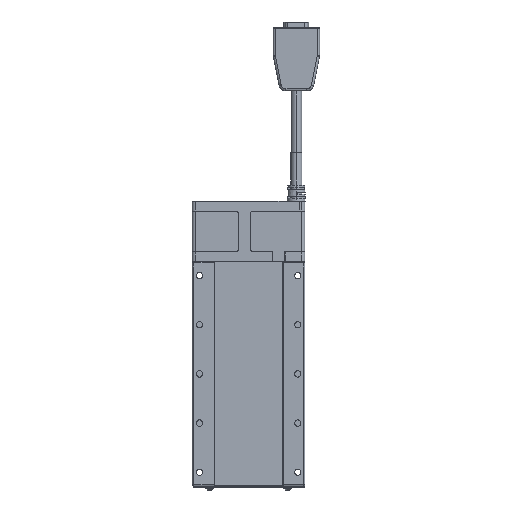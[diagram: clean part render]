
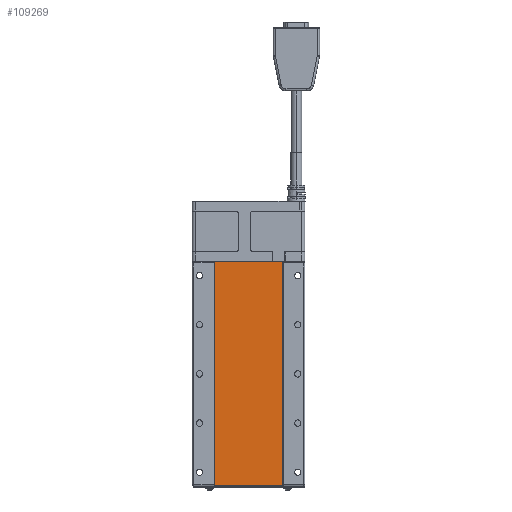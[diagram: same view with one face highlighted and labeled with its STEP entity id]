
A CAD part, front view. The second image highlights one B-rep face of the part: STEP entity #109269.
In plain terms, the highlighted planar face has unit normal (0, -1, 0).
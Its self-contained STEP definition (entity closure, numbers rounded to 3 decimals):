
#1715 = LINE ( 'NONE', #40780, #116876 ) ;
#2167 = CARTESIAN_POINT ( 'NONE',  ( -24.3, 0.5, 159.8 ) ) ;
#2467 = CARTESIAN_POINT ( 'NONE',  ( 24.3, 0.5, 159.8 ) ) ;
#8276 = DIRECTION ( 'NONE',  ( 0., 0., -1. ) ) ;
#8819 = CARTESIAN_POINT ( 'NONE',  ( -24.3, 0.5, 0.2 ) ) ;
#17421 = DIRECTION ( 'NONE',  ( 0., 1., 0. ) ) ;
#18118 = EDGE_LOOP ( 'NONE', ( #83713, #29175, #79916, #24208 ) ) ;
#23680 = EDGE_CURVE ( 'NONE', #74679, #29049, #76760, .T. ) ;
#24208 = ORIENTED_EDGE ( 'NONE', *, *, #89367, .T. ) ;
#29049 = VERTEX_POINT ( 'NONE', #8819 ) ;
#29175 = ORIENTED_EDGE ( 'NONE', *, *, #86094, .T. ) ;
#29224 = VECTOR ( 'NONE', #8276, 1000. ) ;
#29663 = VECTOR ( 'NONE', #108446, 1000. ) ;
#40780 = CARTESIAN_POINT ( 'NONE',  ( -24.3, 0.5, 0.2 ) ) ;
#50383 = EDGE_CURVE ( 'NONE', #106232, #98883, #125933, .T. ) ;
#53342 = FACE_OUTER_BOUND ( 'NONE', #18118, .T. ) ;
#53962 = PLANE ( 'NONE',  #123261 ) ;
#57856 = LINE ( 'NONE', #116762, #29663 ) ;
#70879 = DIRECTION ( 'NONE',  ( 0., 0., 1. ) ) ;
#73838 = DIRECTION ( 'NONE',  ( -1., 0., 0. ) ) ;
#74679 = VERTEX_POINT ( 'NONE', #83474 ) ;
#76760 = LINE ( 'NONE', #113277, #29224 ) ;
#77337 = CARTESIAN_POINT ( 'NONE',  ( 24.3, 0.5, 0.2 ) ) ;
#77919 = CARTESIAN_POINT ( 'NONE',  ( 24.3, 0.5, 0.2 ) ) ;
#79916 = ORIENTED_EDGE ( 'NONE', *, *, #50383, .T. ) ;
#83474 = CARTESIAN_POINT ( 'NONE',  ( -24.3, 0.5, 159.8 ) ) ;
#83713 = ORIENTED_EDGE ( 'NONE', *, *, #23680, .T. ) ;
#86094 = EDGE_CURVE ( 'NONE', #29049, #106232, #1715, .T. ) ;
#89367 = EDGE_CURVE ( 'NONE', #98883, #74679, #57856, .T. ) ;
#97788 = DIRECTION ( 'NONE',  ( 1., 0., 0. ) ) ;
#98883 = VERTEX_POINT ( 'NONE', #2467 ) ;
#100405 = VECTOR ( 'NONE', #70879, 1000. ) ;
#106232 = VERTEX_POINT ( 'NONE', #77919 ) ;
#108446 = DIRECTION ( 'NONE',  ( -1., 0., 0. ) ) ;
#109269 = ADVANCED_FACE ( 'NONE', ( #53342 ), #53962, .F. ) ;
#113277 = CARTESIAN_POINT ( 'NONE',  ( -24.3, 0.5, 0.2 ) ) ;
#116762 = CARTESIAN_POINT ( 'NONE',  ( -24.3, 0.5, 159.8 ) ) ;
#116876 = VECTOR ( 'NONE', #97788, 1000. ) ;
#123261 = AXIS2_PLACEMENT_3D ( 'NONE', #2167, #17421, #73838 ) ;
#125933 = LINE ( 'NONE', #77337, #100405 ) ;
